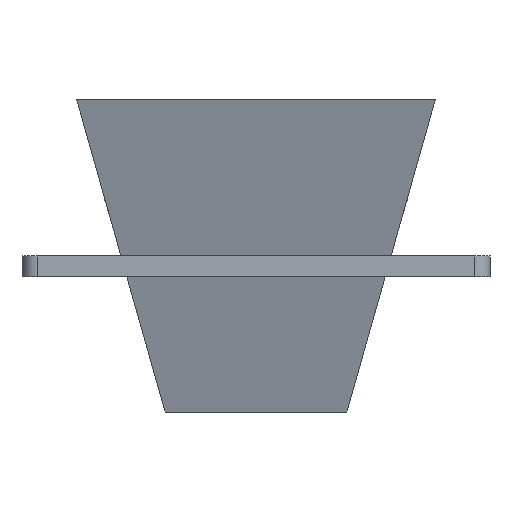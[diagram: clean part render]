
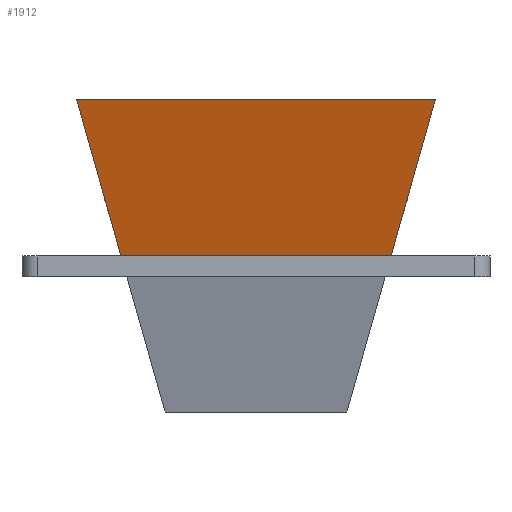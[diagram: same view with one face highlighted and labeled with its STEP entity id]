
A CAD part, front view. The second image highlights one B-rep face of the part: STEP entity #1912.
In plain terms, the highlighted free-form (B-spline) face has degree [1, 1] with [2, 2] control points.
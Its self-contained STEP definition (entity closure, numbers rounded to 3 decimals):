
#827 = PLANE('',#828);
#828 = AXIS2_PLACEMENT_3D('',#829,#830,#831);
#829 = CARTESIAN_POINT('',(-45.,-45.,30.));
#830 = DIRECTION('',(0.,0.,1.));
#831 = DIRECTION('',(1.,0.,0.));
#1491 = PLANE('',#1492);
#1492 = AXIS2_PLACEMENT_3D('',#1493,#1494,#1495);
#1493 = CARTESIAN_POINT('',(-34.494,-34.494,60.)
  );
#1494 = DIRECTION('',(0.,0.,-1.));
#1495 = DIRECTION('',(0.707,0.707,0.));
#1641 = VERTEX_POINT('',#1642);
#1642 = CARTESIAN_POINT('',(25.994,-25.994,30.)
  );
#1654 = B_SPLINE_SURFACE_WITH_KNOTS('',1,1,(
    (#1655,#1656)
    ,(#1657,#1658
    )),.UNSPECIFIED.,.F.,.F.,.F.,(2,2),(2,2),(0.,68.989),(0.,1.
    ),.PIECEWISE_BEZIER_KNOTS.);
#1655 = CARTESIAN_POINT('',(17.494,-17.494,
    0.));
#1656 = CARTESIAN_POINT('',(34.494,-34.494,60.)
  );
#1657 = CARTESIAN_POINT('',(17.494,17.494,
    0.));
#1658 = CARTESIAN_POINT('',(34.494,34.494,60.)
  );
#1665 = EDGE_CURVE('',#1641,#1666,#1668,.T.);
#1666 = VERTEX_POINT('',#1667);
#1667 = CARTESIAN_POINT('',(-25.994,-25.994,30.)
  );
#1668 = SURFACE_CURVE('',#1669,(#1672,#1678),.PCURVE_S1.);
#1669 = B_SPLINE_CURVE_WITH_KNOTS('',1,(#1670,#1671),.UNSPECIFIED.,.F.,
  .F.,(2,2),(0.,1.),.PIECEWISE_BEZIER_KNOTS.);
#1670 = CARTESIAN_POINT('',(25.994,-25.994,30.)
  );
#1671 = CARTESIAN_POINT('',(-25.994,-25.994,30.)
  );
#1672 = PCURVE('',#827,#1673);
#1673 = DEFINITIONAL_REPRESENTATION('',(#1674),#1677);
#1674 = B_SPLINE_CURVE_WITH_KNOTS('',1,(#1675,#1676),.UNSPECIFIED.,.F.,
  .F.,(2,2),(0.,1.),.PIECEWISE_BEZIER_KNOTS.);
#1675 = CARTESIAN_POINT('',(70.994,19.006));
#1676 = CARTESIAN_POINT('',(19.006,19.006));
#1677 = ( GEOMETRIC_REPRESENTATION_CONTEXT(2) 
PARAMETRIC_REPRESENTATION_CONTEXT() REPRESENTATION_CONTEXT('2D SPACE',''
  ) );
#1678 = PCURVE('',#1679,#1684);
#1679 = B_SPLINE_SURFACE_WITH_KNOTS('',1,1,(
    (#1680,#1681)
    ,(#1682,#1683
    )),.UNSPECIFIED.,.F.,.F.,.F.,(2,2),(2,2),(0.,68.989),(0.,1.
    ),.PIECEWISE_BEZIER_KNOTS.);
#1680 = CARTESIAN_POINT('',(-17.494,-17.494,
    0.));
#1681 = CARTESIAN_POINT('',(-34.494,-34.494,60.)
  );
#1682 = CARTESIAN_POINT('',(17.494,-17.494,
    0.));
#1683 = CARTESIAN_POINT('',(34.494,-34.494,60.)
  );
#1684 = DEFINITIONAL_REPRESENTATION('',(#1685),#1688);
#1685 = B_SPLINE_CURVE_WITH_KNOTS('',1,(#1686,#1687),.UNSPECIFIED.,.F.,
  .F.,(2,2),(0.,1.),.PIECEWISE_BEZIER_KNOTS.);
#1686 = CARTESIAN_POINT('',(68.989,0.5));
#1687 = CARTESIAN_POINT('',(0.,0.5));
#1688 = ( GEOMETRIC_REPRESENTATION_CONTEXT(2) 
PARAMETRIC_REPRESENTATION_CONTEXT() REPRESENTATION_CONTEXT('2D SPACE',''
  ) );
#1704 = B_SPLINE_SURFACE_WITH_KNOTS('',1,1,(
    (#1705,#1706)
    ,(#1707,#1708
    )),.UNSPECIFIED.,.F.,.F.,.F.,(2,2),(2,2),(0.,68.989),(0.,1.
    ),.PIECEWISE_BEZIER_KNOTS.);
#1705 = CARTESIAN_POINT('',(-17.494,17.494,
    0.));
#1706 = CARTESIAN_POINT('',(-34.494,34.494,60.)
  );
#1707 = CARTESIAN_POINT('',(-17.494,-17.494,
    0.));
#1708 = CARTESIAN_POINT('',(-34.494,-34.494,60.)
  );
#1744 = EDGE_CURVE('',#1745,#1747,#1749,.T.);
#1745 = VERTEX_POINT('',#1746);
#1746 = CARTESIAN_POINT('',(-34.494,-34.494,60.)
  );
#1747 = VERTEX_POINT('',#1748);
#1748 = CARTESIAN_POINT('',(34.494,-34.494,60.)
  );
#1749 = SURFACE_CURVE('',#1750,(#1754,#1761),.PCURVE_S1.);
#1750 = LINE('',#1751,#1752);
#1751 = CARTESIAN_POINT('',(-34.494,-34.494,60.)
  );
#1752 = VECTOR('',#1753,1.);
#1753 = DIRECTION('',(1.,0.,0.));
#1754 = PCURVE('',#1491,#1755);
#1755 = DEFINITIONAL_REPRESENTATION('',(#1756),#1760);
#1756 = LINE('',#1757,#1758);
#1757 = CARTESIAN_POINT('',(0.,0.));
#1758 = VECTOR('',#1759,1.);
#1759 = DIRECTION('',(0.707,0.707));
#1760 = ( GEOMETRIC_REPRESENTATION_CONTEXT(2) 
PARAMETRIC_REPRESENTATION_CONTEXT() REPRESENTATION_CONTEXT('2D SPACE',''
  ) );
#1761 = PCURVE('',#1679,#1762);
#1762 = DEFINITIONAL_REPRESENTATION('',(#1763),#1767);
#1763 = LINE('',#1764,#1765);
#1764 = CARTESIAN_POINT('',(0.,1.));
#1765 = VECTOR('',#1766,1.);
#1766 = DIRECTION('',(1.,0.));
#1767 = ( GEOMETRIC_REPRESENTATION_CONTEXT(2) 
PARAMETRIC_REPRESENTATION_CONTEXT() REPRESENTATION_CONTEXT('2D SPACE',''
  ) );
#1845 = EDGE_CURVE('',#1641,#1747,#1846,.T.);
#1846 = SURFACE_CURVE('',#1847,(#1850,#1857),.PCURVE_S1.);
#1847 = B_SPLINE_CURVE_WITH_KNOTS('',1,(#1848,#1849),.UNSPECIFIED.,.F.,
  .F.,(2,2),(0.,1.),.PIECEWISE_BEZIER_KNOTS.);
#1848 = CARTESIAN_POINT('',(17.494,-17.494,
    0.));
#1849 = CARTESIAN_POINT('',(34.494,-34.494,60.)
  );
#1850 = PCURVE('',#1654,#1851);
#1851 = DEFINITIONAL_REPRESENTATION('',(#1852),#1856);
#1852 = LINE('',#1853,#1854);
#1853 = CARTESIAN_POINT('',(0.,0.));
#1854 = VECTOR('',#1855,1.);
#1855 = DIRECTION('',(0.,1.));
#1856 = ( GEOMETRIC_REPRESENTATION_CONTEXT(2) 
PARAMETRIC_REPRESENTATION_CONTEXT() REPRESENTATION_CONTEXT('2D SPACE',''
  ) );
#1857 = PCURVE('',#1679,#1858);
#1858 = DEFINITIONAL_REPRESENTATION('',(#1859),#1863);
#1859 = LINE('',#1860,#1861);
#1860 = CARTESIAN_POINT('',(68.989,0.));
#1861 = VECTOR('',#1862,1.);
#1862 = DIRECTION('',(0.,1.));
#1863 = ( GEOMETRIC_REPRESENTATION_CONTEXT(2) 
PARAMETRIC_REPRESENTATION_CONTEXT() REPRESENTATION_CONTEXT('2D SPACE',''
  ) );
#1912 = ADVANCED_FACE('',(#1913),#1679,.T.);
#1913 = FACE_BOUND('',#1914,.T.);
#1914 = EDGE_LOOP('',(#1915,#1935,#1936,#1937));
#1915 = ORIENTED_EDGE('',*,*,#1916,.F.);
#1916 = EDGE_CURVE('',#1666,#1745,#1917,.T.);
#1917 = SURFACE_CURVE('',#1918,(#1921,#1928),.PCURVE_S1.);
#1918 = B_SPLINE_CURVE_WITH_KNOTS('',1,(#1919,#1920),.UNSPECIFIED.,.F.,
  .F.,(2,2),(0.,1.),.PIECEWISE_BEZIER_KNOTS.);
#1919 = CARTESIAN_POINT('',(-17.494,-17.494,
    0.));
#1920 = CARTESIAN_POINT('',(-34.494,-34.494,60.)
  );
#1921 = PCURVE('',#1679,#1922);
#1922 = DEFINITIONAL_REPRESENTATION('',(#1923),#1927);
#1923 = LINE('',#1924,#1925);
#1924 = CARTESIAN_POINT('',(0.,0.));
#1925 = VECTOR('',#1926,1.);
#1926 = DIRECTION('',(0.,1.));
#1927 = ( GEOMETRIC_REPRESENTATION_CONTEXT(2) 
PARAMETRIC_REPRESENTATION_CONTEXT() REPRESENTATION_CONTEXT('2D SPACE',''
  ) );
#1928 = PCURVE('',#1704,#1929);
#1929 = DEFINITIONAL_REPRESENTATION('',(#1930),#1934);
#1930 = LINE('',#1931,#1932);
#1931 = CARTESIAN_POINT('',(68.989,0.));
#1932 = VECTOR('',#1933,1.);
#1933 = DIRECTION('',(0.,1.));
#1934 = ( GEOMETRIC_REPRESENTATION_CONTEXT(2) 
PARAMETRIC_REPRESENTATION_CONTEXT() REPRESENTATION_CONTEXT('2D SPACE',''
  ) );
#1935 = ORIENTED_EDGE('',*,*,#1665,.F.);
#1936 = ORIENTED_EDGE('',*,*,#1845,.T.);
#1937 = ORIENTED_EDGE('',*,*,#1744,.F.);
